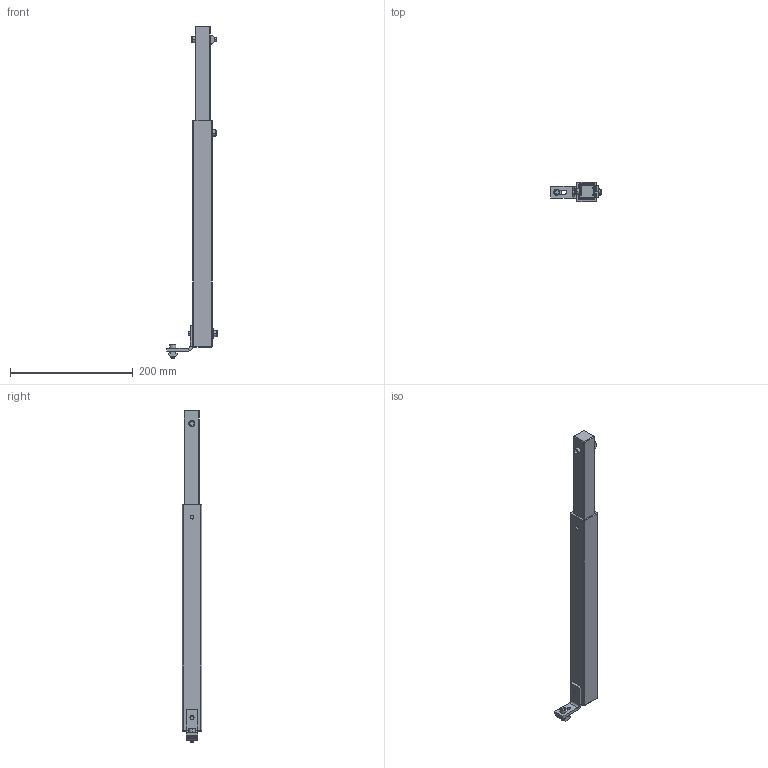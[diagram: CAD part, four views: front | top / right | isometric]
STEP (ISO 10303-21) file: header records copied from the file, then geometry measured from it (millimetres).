
FILE_DESCRIPTION((''),'2;1');
FILE_NAME('27M400_ASM','2017-08-16T',('james.horst'),(''),'PRO/ENGINEER BY PARAMETRIC TECHNOLOGY CORPORATION, 2012420','PRO/ENGINEER BY PARAMETRIC TECHNOLOGY CORPORATION, 2012420','');
FILE_SCHEMA(('CONFIG_CONTROL_DESIGN'));
Length unit declared in the file: inch
Products named in the file (14): 233203_1; 233107_1; 930420M_1; 990403M_1; 639971M_1; 920612M_1; 233108M_1; 911-007_1; 920640M_1; 920616M_1; 920635M_1; CAP_1; CAP2_1; 27M400_ASM
Assembly tree (15 placements, depth 2):
  27M400_ASM
    233203_1
    233107_1
    930420M_1
    990403M_1
    639971M_1  x3
    920612M_1
    233108M_1
    911-007_1
    920640M_1
    920616M_1
    920635M_1
    CAP_1
    CAP2_1
Bounding box: 81.82 x 31.75 x 541.48 mm (x, y, z)
Volume: 239349.3 mm3; surface area: 157753.6 mm2
Topology: 15 solids, 19 shells, 291 faces, 706 edges, 454 vertices
Faces by surface type: plane 149, cylinder 112, cone 22, bspline 8
Entity records: 7403 total; most frequent: CARTESIAN_POINT 1528, DIRECTION 1240, ORIENTED_EDGE 1092, EDGE_CURVE 550, AXIS2_PLACEMENT_3D 442, VECTOR 356, LINE 356, VERTEX_POINT 350
